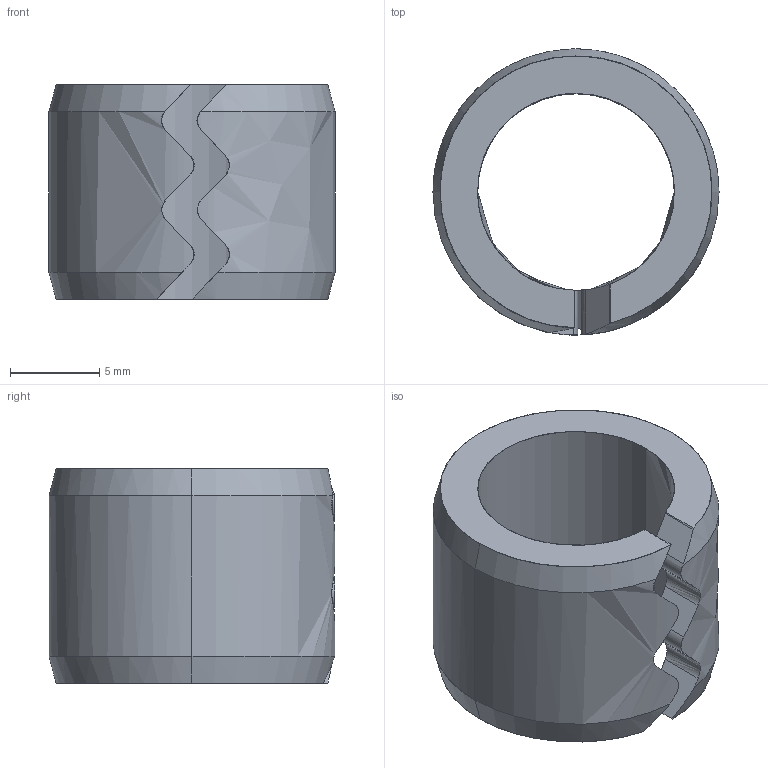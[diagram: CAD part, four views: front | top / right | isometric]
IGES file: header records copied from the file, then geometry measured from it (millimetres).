
Global section: file name: E:\UnigraphicsGraphicData\MISUMI_PRESS-PARTS\IGES\3d_swa16_00411_r00.igs; native system: NX V5.0; preprocessor: UGS NX IGES V5.0; author: MISUMI; date: 20110105.163250; units: millimetre
Bounding box: 16 x 16 x 12 mm (x, y, z)
Surface area: 1211.5 mm2 (no closed solid volume)
Topology: 0 solids, 0 shells, 34 faces, 216 edges, 216 vertices
Faces by surface type: bspline 34
